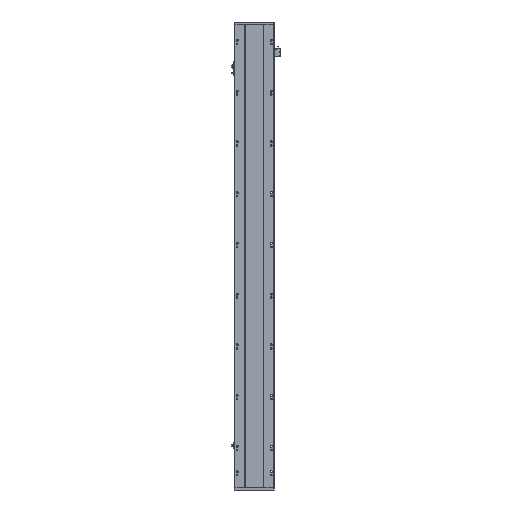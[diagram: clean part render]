
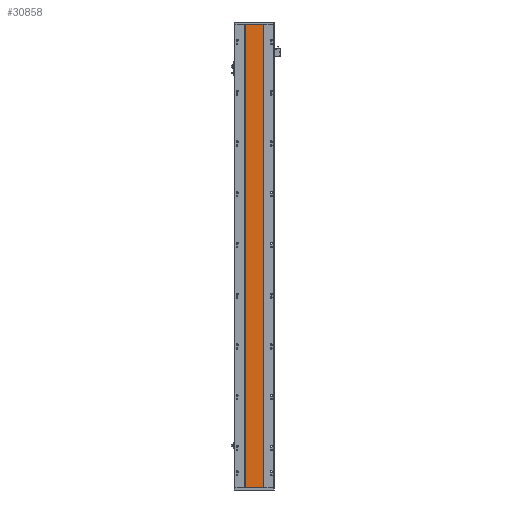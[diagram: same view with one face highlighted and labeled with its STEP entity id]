
A CAD part, front view. The second image highlights one B-rep face of the part: STEP entity #30858.
In plain terms, the highlighted planar face has unit normal (0, -1, 0).
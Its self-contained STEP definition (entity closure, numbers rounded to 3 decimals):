
#2250 = EDGE_CURVE ( 'NONE', #21896, #16545, #17122, .T. ) ;
#2362 = VECTOR ( 'NONE', #26964, 1000. ) ;
#2882 = VECTOR ( 'NONE', #8930, 1000. ) ;
#5686 = DIRECTION ( 'NONE',  ( 1., 0., 0. ) ) ;
#8930 = DIRECTION ( 'NONE',  ( 1., 0., 0. ) ) ;
#10492 = LINE ( 'NONE', #20663, #2362 ) ;
#10508 = DIRECTION ( 'NONE',  ( 0., 0., -1. ) ) ;
#12862 = CARTESIAN_POINT ( 'NONE',  ( 129.288, 16.9, 0. ) ) ;
#13396 = ORIENTED_EDGE ( 'NONE', *, *, #16657, .T. ) ;
#15748 = EDGE_CURVE ( 'NONE', #16545, #32070, #10492, .T. ) ;
#16545 = VERTEX_POINT ( 'NONE', #37232 ) ;
#16657 = EDGE_CURVE ( 'NONE', #21896, #17345, #28189, .T. ) ;
#17122 = LINE ( 'NONE', #39504, #27218 ) ;
#17345 = VERTEX_POINT ( 'NONE', #12862 ) ;
#19333 = CARTESIAN_POINT ( 'NONE',  ( 205.288, 16.9, 0. ) ) ;
#19505 = ORIENTED_EDGE ( 'NONE', *, *, #33318, .T. ) ;
#20663 = CARTESIAN_POINT ( 'NONE',  ( 205.288, 16.9, 1972. ) ) ;
#21896 = VERTEX_POINT ( 'NONE', #31927 ) ;
#22864 = AXIS2_PLACEMENT_3D ( 'NONE', #30572, #33757, #33358 ) ;
#26964 = DIRECTION ( 'NONE',  ( 0., 0., -1. ) ) ;
#27218 = VECTOR ( 'NONE', #5686, 1000. ) ;
#28189 = LINE ( 'NONE', #38307, #32002 ) ;
#30572 = CARTESIAN_POINT ( 'NONE',  ( 205.288, 16.9, 1972. ) ) ;
#30858 = ADVANCED_FACE ( 'NONE', ( #34343 ), #33898, .F. ) ;
#31338 = EDGE_LOOP ( 'NONE', ( #19505, #33063, #33822, #13396 ) ) ;
#31927 = CARTESIAN_POINT ( 'NONE',  ( 129.288, 16.9, 1972. ) ) ;
#32002 = VECTOR ( 'NONE', #10508, 1000. ) ;
#32070 = VERTEX_POINT ( 'NONE', #19333 ) ;
#32646 = LINE ( 'NONE', #33174, #2882 ) ;
#33063 = ORIENTED_EDGE ( 'NONE', *, *, #15748, .F. ) ;
#33174 = CARTESIAN_POINT ( 'NONE',  ( 205.288, 16.9, 0. ) ) ;
#33318 = EDGE_CURVE ( 'NONE', #17345, #32070, #32646, .T. ) ;
#33358 = DIRECTION ( 'NONE',  ( -1., 0., 0. ) ) ;
#33757 = DIRECTION ( 'NONE',  ( 0., 1., 0. ) ) ;
#33822 = ORIENTED_EDGE ( 'NONE', *, *, #2250, .F. ) ;
#33898 = PLANE ( 'NONE',  #22864 ) ;
#34343 = FACE_OUTER_BOUND ( 'NONE', #31338, .T. ) ;
#37232 = CARTESIAN_POINT ( 'NONE',  ( 205.288, 16.9, 1972. ) ) ;
#38307 = CARTESIAN_POINT ( 'NONE',  ( 129.288, 16.9, 1972. ) ) ;
#39504 = CARTESIAN_POINT ( 'NONE',  ( 129.288, 16.9, 1972. ) ) ;
